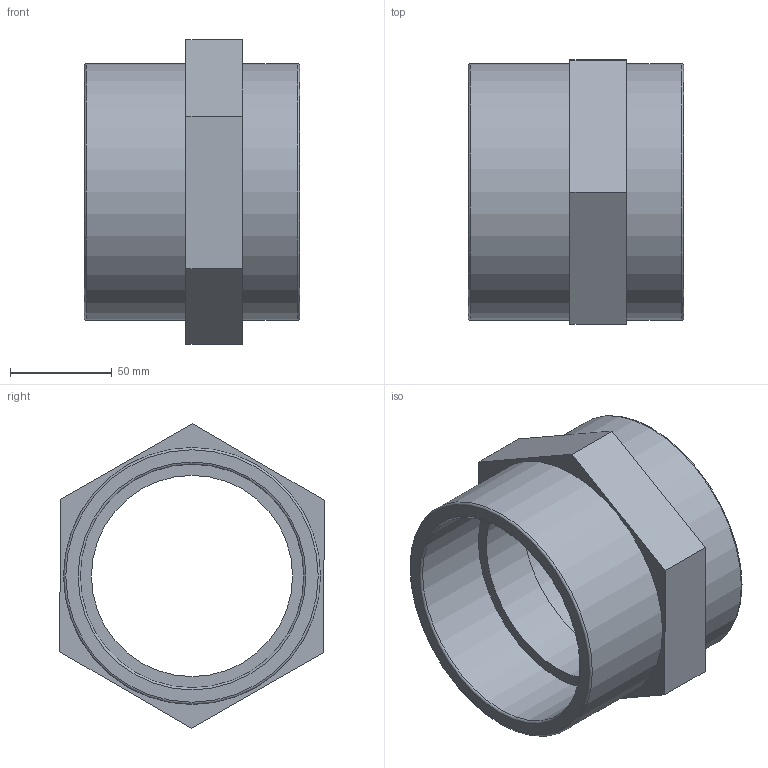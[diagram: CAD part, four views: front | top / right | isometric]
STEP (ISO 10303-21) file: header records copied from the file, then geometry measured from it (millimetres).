
FILE_DESCRIPTION(/* description */ ('PLASSON THREADED SOCKET PVC 4"'),/* implementation_level */ '2;1');
FILE_NAME(/* name */ 'C:\Dropbox\KIMPROJECTS-Inventor\99-16-3568-Processing\PVC Catalog 2017\050101\050101040.ipt.stp',/* time_stamp */ '2017-12-07T15:51:47+02:00',/* author */ ('KIM'),/* organization */ (''),/* preprocessor_version */ 'ST-DEVELOPER v15.6',/* originating_system */ 'Autodesk Inventor 2015',/* authorisation */ '');
FILE_SCHEMA (('AUTOMOTIVE_DESIGN { 1 0 10303 214 3 1 1 }'));
Length unit declared in the file: millimetre
Products named in the file (1): 050101040
Bounding box: 106 x 130.21 x 150.11 mm (x, y, z)
Volume: 429352.1 mm3; surface area: 92537.2 mm2
Topology: 1 solids, 1 shells, 21 faces, 41 edges, 26 vertices
Faces by surface type: plane 12, cylinder 5, torus 4
Full cylindrical faces by diameter (mm): 99.065 x1, 110.072 x2, 126.583 x2
Entity records: 520 total; most frequent: DIRECTION 90, CARTESIAN_POINT 80, ORIENTED_EDGE 64, EDGE_LOOP 36, AXIS2_PLACEMENT_3D 36, EDGE_CURVE 32, VERTEX_POINT 26, FACE_OUTER_BOUND 21
